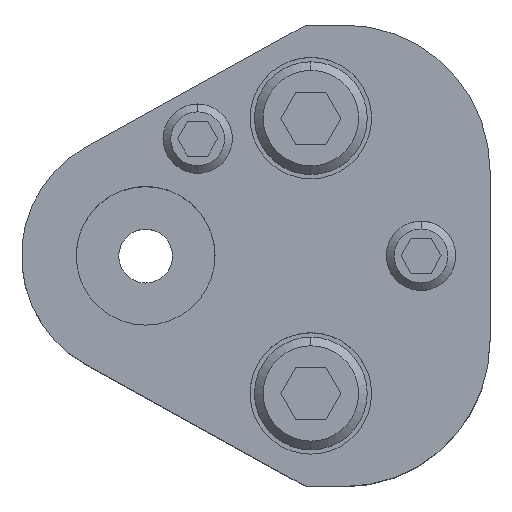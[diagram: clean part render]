
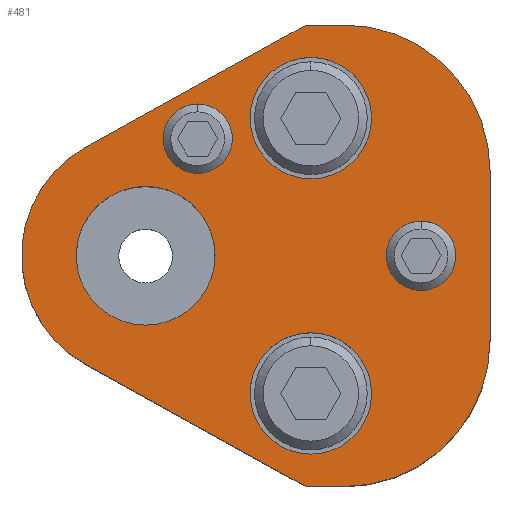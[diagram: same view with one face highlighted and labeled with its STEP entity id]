
A CAD part, top view. The second image highlights one B-rep face of the part: STEP entity #481.
In plain terms, the highlighted planar face has unit normal (0, 0, 1).
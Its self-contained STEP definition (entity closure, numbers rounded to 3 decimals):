
#213=FACE_BOUND('',#843,.T.);
#214=FACE_BOUND('',#844,.T.);
#215=FACE_BOUND('',#845,.T.);
#216=FACE_BOUND('',#846,.T.);
#217=FACE_BOUND('',#847,.T.);
#218=FACE_BOUND('',#848,.T.);
#303=CIRCLE('',#2712,16.8);
#305=CIRCLE('',#2716,16.8);
#308=CIRCLE('',#2722,14.3);
#309=CIRCLE('',#2724,4.);
#311=CIRCLE('',#2727,4.);
#313=CIRCLE('',#2730,4.);
#315=CIRCLE('',#2733,4.);
#325=CIRCLE('',#2748,7.);
#326=CIRCLE('',#2749,7.);
#327=CIRCLE('',#2750,7.);
#328=CIRCLE('',#2751,7.);
#329=CIRCLE('',#2752,8.);
#330=CIRCLE('',#2753,8.);
#481=ADVANCED_FACE('',(#213,#214,#215,#216,#217,#218),#595,.T.);
#595=PLANE('',#2754);
#843=EDGE_LOOP('',(#1257,#1258,#1259,#1260,#1261,#1262,#1263,#1264));
#844=EDGE_LOOP('',(#1265,#1266));
#845=EDGE_LOOP('',(#1267,#1268));
#846=EDGE_LOOP('',(#1269,#1270));
#847=EDGE_LOOP('',(#1271,#1272));
#848=EDGE_LOOP('',(#1273,#1274));
#1257=ORIENTED_EDGE('',*,*,#1996,.T.);
#1258=ORIENTED_EDGE('',*,*,#2000,.T.);
#1259=ORIENTED_EDGE('',*,*,#2003,.T.);
#1260=ORIENTED_EDGE('',*,*,#2006,.T.);
#1261=ORIENTED_EDGE('',*,*,#2009,.T.);
#1262=ORIENTED_EDGE('',*,*,#2012,.T.);
#1263=ORIENTED_EDGE('',*,*,#2015,.T.);
#1264=ORIENTED_EDGE('',*,*,#2018,.T.);
#1265=ORIENTED_EDGE('',*,*,#2043,.F.);
#1266=ORIENTED_EDGE('',*,*,#2044,.F.);
#1267=ORIENTED_EDGE('',*,*,#2045,.F.);
#1268=ORIENTED_EDGE('',*,*,#2046,.F.);
#1269=ORIENTED_EDGE('',*,*,#2029,.F.);
#1270=ORIENTED_EDGE('',*,*,#2025,.F.);
#1271=ORIENTED_EDGE('',*,*,#2023,.F.);
#1272=ORIENTED_EDGE('',*,*,#2019,.F.);
#1273=ORIENTED_EDGE('',*,*,#2047,.T.);
#1274=ORIENTED_EDGE('',*,*,#2048,.T.);
#1728=VERTEX_POINT('',#4024);
#1729=VERTEX_POINT('',#4026);
#1732=VERTEX_POINT('',#4033);
#1734=VERTEX_POINT('',#4039);
#1736=VERTEX_POINT('',#4045);
#1738=VERTEX_POINT('',#4051);
#1740=VERTEX_POINT('',#4057);
#1742=VERTEX_POINT('',#4063);
#1743=VERTEX_POINT('',#4071);
#1744=VERTEX_POINT('',#4072);
#1747=VERTEX_POINT('',#4083);
#1748=VERTEX_POINT('',#4084);
#1759=VERTEX_POINT('',#4119);
#1760=VERTEX_POINT('',#4120);
#1761=VERTEX_POINT('',#4123);
#1762=VERTEX_POINT('',#4124);
#1763=VERTEX_POINT('',#4127);
#1764=VERTEX_POINT('',#4128);
#1996=EDGE_CURVE('',#1729,#1728,#2294,.T.);
#2000=EDGE_CURVE('',#1728,#1732,#2298,.T.);
#2003=EDGE_CURVE('',#1732,#1734,#303,.T.);
#2006=EDGE_CURVE('',#1734,#1736,#2302,.T.);
#2009=EDGE_CURVE('',#1736,#1738,#305,.T.);
#2012=EDGE_CURVE('',#1738,#1740,#2306,.T.);
#2015=EDGE_CURVE('',#1740,#1742,#2309,.T.);
#2018=EDGE_CURVE('',#1742,#1729,#308,.T.);
#2019=EDGE_CURVE('',#1743,#1744,#309,.T.);
#2023=EDGE_CURVE('',#1744,#1743,#311,.T.);
#2025=EDGE_CURVE('',#1747,#1748,#313,.T.);
#2029=EDGE_CURVE('',#1748,#1747,#315,.T.);
#2043=EDGE_CURVE('',#1759,#1760,#325,.T.);
#2044=EDGE_CURVE('',#1760,#1759,#326,.T.);
#2045=EDGE_CURVE('',#1761,#1762,#327,.T.);
#2046=EDGE_CURVE('',#1762,#1761,#328,.T.);
#2047=EDGE_CURVE('',#1763,#1764,#329,.T.);
#2048=EDGE_CURVE('',#1764,#1763,#330,.T.);
#2294=LINE('',#4025,#2486);
#2298=LINE('',#4034,#2490);
#2302=LINE('',#4046,#2494);
#2306=LINE('',#4058,#2498);
#2309=LINE('',#4064,#2501);
#2486=VECTOR('',#3186,1.);
#2490=VECTOR('',#3192,1.);
#2494=VECTOR('',#3204,1.);
#2498=VECTOR('',#3216,1.);
#2501=VECTOR('',#3221,1.);
#2712=AXIS2_PLACEMENT_3D('',#4040,#3197,#3198);
#2716=AXIS2_PLACEMENT_3D('',#4052,#3209,#3210);
#2722=AXIS2_PLACEMENT_3D('',#4068,#3227,#3228);
#2724=AXIS2_PLACEMENT_3D('',#4070,#3231,#3232);
#2727=AXIS2_PLACEMENT_3D('',#4079,#3239,#3240);
#2730=AXIS2_PLACEMENT_3D('',#4082,#3245,#3246);
#2733=AXIS2_PLACEMENT_3D('',#4091,#3253,#3254);
#2748=AXIS2_PLACEMENT_3D('',#4118,#3287,#3288);
#2749=AXIS2_PLACEMENT_3D('',#4121,#3289,#3290);
#2750=AXIS2_PLACEMENT_3D('',#4122,#3291,#3292);
#2751=AXIS2_PLACEMENT_3D('',#4125,#3293,#3294);
#2752=AXIS2_PLACEMENT_3D('',#4126,#3295,#3296);
#2753=AXIS2_PLACEMENT_3D('',#4129,#3297,#3298);
#2754=AXIS2_PLACEMENT_3D('',#4130,#3299,#3300);
#3186=DIRECTION('',(0.875,-0.485,0.));
#3192=DIRECTION('',(1.,0.,0.));
#3197=DIRECTION('',(0.,0.,1.));
#3198=DIRECTION('',(-0.707,0.707,0.));
#3204=DIRECTION('',(0.,1.,0.));
#3209=DIRECTION('',(0.,0.,1.));
#3210=DIRECTION('',(-0.707,-0.707,0.));
#3216=DIRECTION('',(-1.,0.,0.));
#3221=DIRECTION('',(-0.875,-0.485,0.));
#3227=DIRECTION('',(0.,0.,1.));
#3228=DIRECTION('',(1.,0.,0.));
#3231=DIRECTION('',(0.,0.,1.));
#3232=DIRECTION('',(-1.,0.,0.));
#3239=DIRECTION('',(0.,0.,1.));
#3240=DIRECTION('',(1.,0.,0.));
#3245=DIRECTION('',(0.,0.,1.));
#3246=DIRECTION('',(-1.,0.,0.));
#3253=DIRECTION('',(0.,0.,1.));
#3254=DIRECTION('',(1.,0.,0.));
#3287=DIRECTION('',(0.,0.,1.));
#3288=DIRECTION('',(1.,0.,0.));
#3289=DIRECTION('',(0.,0.,1.));
#3290=DIRECTION('',(-1.,0.,0.));
#3291=DIRECTION('',(0.,0.,1.));
#3292=DIRECTION('',(1.,0.,0.));
#3293=DIRECTION('',(0.,0.,1.));
#3294=DIRECTION('',(-1.,0.,0.));
#3295=DIRECTION('',(0.,0.,-1.));
#3296=DIRECTION('',(-1.,0.,0.));
#3297=DIRECTION('',(0.,0.,-1.));
#3298=DIRECTION('',(1.,0.,0.));
#3299=DIRECTION('',(0.,0.,1.));
#3300=DIRECTION('',(-0.875,0.485,0.));
#4024=CARTESIAN_POINT('',(18.492,-26.6,30.));
#4025=CARTESIAN_POINT('',(18.492,-26.6,30.));
#4026=CARTESIAN_POINT('',(-6.933,-12.507,30.));
#4033=CARTESIAN_POINT('',(22.9,-26.6,30.));
#4034=CARTESIAN_POINT('',(18.492,-26.6,30.));
#4039=CARTESIAN_POINT('',(39.7,-9.8,30.));
#4040=CARTESIAN_POINT('',(22.9,-9.8,30.));
#4045=CARTESIAN_POINT('',(39.7,9.8,30.));
#4046=CARTESIAN_POINT('',(39.7,9.8,30.));
#4051=CARTESIAN_POINT('',(22.9,26.6,30.));
#4052=CARTESIAN_POINT('',(22.9,9.8,30.));
#4057=CARTESIAN_POINT('',(18.492,26.6,30.));
#4058=CARTESIAN_POINT('',(18.492,26.6,30.));
#4063=CARTESIAN_POINT('',(-6.933,12.507,30.));
#4064=CARTESIAN_POINT('',(18.492,26.6,30.));
#4068=CARTESIAN_POINT('',(0.,0.,30.));
#4070=CARTESIAN_POINT('',(6.,13.5,30.));
#4071=CARTESIAN_POINT('',(6.,9.5,30.));
#4072=CARTESIAN_POINT('',(6.,17.5,30.));
#4079=CARTESIAN_POINT('',(6.,13.5,30.));
#4082=CARTESIAN_POINT('',(31.75,0.,30.));
#4083=CARTESIAN_POINT('',(31.75,-4.,30.));
#4084=CARTESIAN_POINT('',(31.75,4.,30.));
#4091=CARTESIAN_POINT('',(31.75,0.,30.));
#4118=CARTESIAN_POINT('',(19.05,15.87,30.));
#4119=CARTESIAN_POINT('',(19.05,22.87,30.));
#4120=CARTESIAN_POINT('',(19.05,8.87,30.));
#4121=CARTESIAN_POINT('',(19.05,15.87,30.));
#4122=CARTESIAN_POINT('',(19.05,-15.87,30.));
#4123=CARTESIAN_POINT('',(19.05,-8.87,30.));
#4124=CARTESIAN_POINT('',(19.05,-22.87,30.));
#4125=CARTESIAN_POINT('',(19.05,-15.87,30.));
#4126=CARTESIAN_POINT('',(0.,0.,30.));
#4127=CARTESIAN_POINT('',(0.,8.,30.));
#4128=CARTESIAN_POINT('',(0.,-8.,30.));
#4129=CARTESIAN_POINT('',(0.,0.,30.));
#4130=CARTESIAN_POINT('',(-6.933,-12.507,30.));
